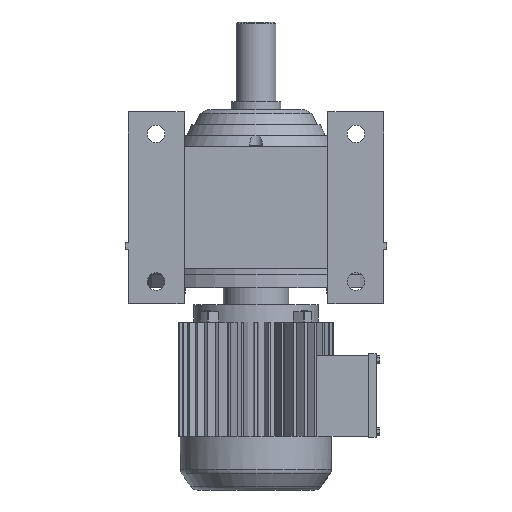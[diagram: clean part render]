
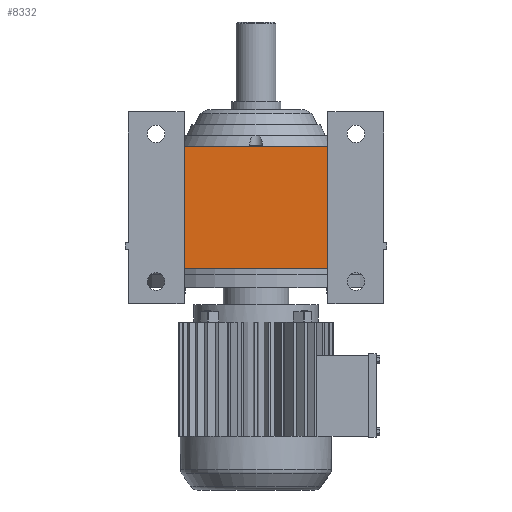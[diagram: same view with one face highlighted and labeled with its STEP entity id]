
A CAD part, front view. The second image highlights one B-rep face of the part: STEP entity #8332.
In plain terms, the highlighted planar face has unit normal (0, -1, 0).
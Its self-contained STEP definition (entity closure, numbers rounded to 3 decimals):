
#2512 = PLANE('',#2513);
#2513 = AXIS2_PLACEMENT_3D('',#2514,#2515,#2516);
#2514 = CARTESIAN_POINT('',(-90.,-193.,-36.5));
#2515 = DIRECTION('',(1.,0.,0.));
#2516 = DIRECTION('',(0.,0.,-1.));
#3045 = PLANE('',#3046);
#3046 = AXIS2_PLACEMENT_3D('',#3047,#3048,#3049);
#3047 = CARTESIAN_POINT('',(-96.5,27.45,159.5));
#3048 = DIRECTION('',(0.,0.,1.));
#3049 = DIRECTION('',(1.,0.,0.));
#3253 = PLANE('',#3254);
#3254 = AXIS2_PLACEMENT_3D('',#3255,#3256,#3257);
#3255 = CARTESIAN_POINT('',(90.,-193.,-36.5));
#3256 = DIRECTION('',(-1.,0.,0.));
#3257 = DIRECTION('',(0.,0.,1.));
#3795 = PLANE('',#3796);
#3796 = AXIS2_PLACEMENT_3D('',#3797,#3798,#3799);
#3797 = CARTESIAN_POINT('',(-96.5,27.45,7.5));
#3798 = DIRECTION('',(0.,0.,1.));
#3799 = DIRECTION('',(1.,0.,0.));
#4275 = EDGE_CURVE('',#4276,#4278,#4280,.T.);
#4276 = VERTEX_POINT('',#4277);
#4277 = CARTESIAN_POINT('',(-90.,-222.167,159.5));
#4278 = VERTEX_POINT('',#4279);
#4279 = CARTESIAN_POINT('',(-90.,-222.167,7.5));
#4280 = SURFACE_CURVE('',#4281,(#4285,#4292),.PCURVE_S1.);
#4281 = LINE('',#4282,#4283);
#4282 = CARTESIAN_POINT('',(-90.,-222.167,159.5));
#4283 = VECTOR('',#4284,1.);
#4284 = DIRECTION('',(0.,0.,-1.));
#4285 = PCURVE('',#2512,#4286);
#4286 = DEFINITIONAL_REPRESENTATION('',(#4287),#4291);
#4287 = LINE('',#4288,#4289);
#4288 = CARTESIAN_POINT('',(-196.,-29.167));
#4289 = VECTOR('',#4290,1.);
#4290 = DIRECTION('',(1.,0.));
#4291 = ( GEOMETRIC_REPRESENTATION_CONTEXT(2) 
PARAMETRIC_REPRESENTATION_CONTEXT() REPRESENTATION_CONTEXT('2D SPACE',''
  ) );
#4292 = PCURVE('',#4293,#4298);
#4293 = PLANE('',#4294);
#4294 = AXIS2_PLACEMENT_3D('',#4295,#4296,#4297);
#4295 = CARTESIAN_POINT('',(-160.,-222.167,159.5));
#4296 = DIRECTION('',(0.,1.,0.));
#4297 = DIRECTION('',(0.,0.,1.));
#4298 = DEFINITIONAL_REPRESENTATION('',(#4299),#4303);
#4299 = LINE('',#4300,#4301);
#4300 = CARTESIAN_POINT('',(0.,70.));
#4301 = VECTOR('',#4302,1.);
#4302 = DIRECTION('',(-1.,0.));
#4303 = ( GEOMETRIC_REPRESENTATION_CONTEXT(2) 
PARAMETRIC_REPRESENTATION_CONTEXT() REPRESENTATION_CONTEXT('2D SPACE',''
  ) );
#6788 = EDGE_CURVE('',#4276,#6789,#6791,.T.);
#6789 = VERTEX_POINT('',#6790);
#6790 = CARTESIAN_POINT('',(90.,-222.167,159.5));
#6791 = SURFACE_CURVE('',#6792,(#6796,#6803),.PCURVE_S1.);
#6792 = LINE('',#6793,#6794);
#6793 = CARTESIAN_POINT('',(-160.,-222.167,159.5));
#6794 = VECTOR('',#6795,1.);
#6795 = DIRECTION('',(1.,0.,0.));
#6796 = PCURVE('',#3045,#6797);
#6797 = DEFINITIONAL_REPRESENTATION('',(#6798),#6802);
#6798 = LINE('',#6799,#6800);
#6799 = CARTESIAN_POINT('',(-63.5,-249.617));
#6800 = VECTOR('',#6801,1.);
#6801 = DIRECTION('',(1.,0.));
#6802 = ( GEOMETRIC_REPRESENTATION_CONTEXT(2) 
PARAMETRIC_REPRESENTATION_CONTEXT() REPRESENTATION_CONTEXT('2D SPACE',''
  ) );
#6803 = PCURVE('',#4293,#6804);
#6804 = DEFINITIONAL_REPRESENTATION('',(#6805),#6809);
#6805 = LINE('',#6806,#6807);
#6806 = CARTESIAN_POINT('',(0.,0.));
#6807 = VECTOR('',#6808,1.);
#6808 = DIRECTION('',(0.,1.));
#6809 = ( GEOMETRIC_REPRESENTATION_CONTEXT(2) 
PARAMETRIC_REPRESENTATION_CONTEXT() REPRESENTATION_CONTEXT('2D SPACE',''
  ) );
#7652 = EDGE_CURVE('',#7653,#6789,#7655,.T.);
#7653 = VERTEX_POINT('',#7654);
#7654 = CARTESIAN_POINT('',(90.,-222.167,7.5));
#7655 = SURFACE_CURVE('',#7656,(#7660,#7667),.PCURVE_S1.);
#7656 = LINE('',#7657,#7658);
#7657 = CARTESIAN_POINT('',(90.,-222.167,159.5));
#7658 = VECTOR('',#7659,1.);
#7659 = DIRECTION('',(0.,0.,1.));
#7660 = PCURVE('',#3253,#7661);
#7661 = DEFINITIONAL_REPRESENTATION('',(#7662),#7666);
#7662 = LINE('',#7663,#7664);
#7663 = CARTESIAN_POINT('',(196.,-29.167));
#7664 = VECTOR('',#7665,1.);
#7665 = DIRECTION('',(1.,0.));
#7666 = ( GEOMETRIC_REPRESENTATION_CONTEXT(2) 
PARAMETRIC_REPRESENTATION_CONTEXT() REPRESENTATION_CONTEXT('2D SPACE',''
  ) );
#7667 = PCURVE('',#4293,#7668);
#7668 = DEFINITIONAL_REPRESENTATION('',(#7669),#7673);
#7669 = LINE('',#7670,#7671);
#7670 = CARTESIAN_POINT('',(0.,250.));
#7671 = VECTOR('',#7672,1.);
#7672 = DIRECTION('',(1.,0.));
#7673 = ( GEOMETRIC_REPRESENTATION_CONTEXT(2) 
PARAMETRIC_REPRESENTATION_CONTEXT() REPRESENTATION_CONTEXT('2D SPACE',''
  ) );
#8183 = EDGE_CURVE('',#4278,#7653,#8184,.T.);
#8184 = SURFACE_CURVE('',#8185,(#8189,#8196),.PCURVE_S1.);
#8185 = LINE('',#8186,#8187);
#8186 = CARTESIAN_POINT('',(-160.,-222.167,7.5));
#8187 = VECTOR('',#8188,1.);
#8188 = DIRECTION('',(1.,0.,0.));
#8189 = PCURVE('',#3795,#8190);
#8190 = DEFINITIONAL_REPRESENTATION('',(#8191),#8195);
#8191 = LINE('',#8192,#8193);
#8192 = CARTESIAN_POINT('',(-63.5,-249.617));
#8193 = VECTOR('',#8194,1.);
#8194 = DIRECTION('',(1.,0.));
#8195 = ( GEOMETRIC_REPRESENTATION_CONTEXT(2) 
PARAMETRIC_REPRESENTATION_CONTEXT() REPRESENTATION_CONTEXT('2D SPACE',''
  ) );
#8196 = PCURVE('',#4293,#8197);
#8197 = DEFINITIONAL_REPRESENTATION('',(#8198),#8202);
#8198 = LINE('',#8199,#8200);
#8199 = CARTESIAN_POINT('',(-152.,0.));
#8200 = VECTOR('',#8201,1.);
#8201 = DIRECTION('',(0.,1.));
#8202 = ( GEOMETRIC_REPRESENTATION_CONTEXT(2) 
PARAMETRIC_REPRESENTATION_CONTEXT() REPRESENTATION_CONTEXT('2D SPACE',''
  ) );
#8332 = ADVANCED_FACE('',(#8333),#4293,.F.);
#8333 = FACE_BOUND('',#8334,.T.);
#8334 = EDGE_LOOP('',(#8335,#8336,#8337,#8338));
#8335 = ORIENTED_EDGE('',*,*,#6788,.F.);
#8336 = ORIENTED_EDGE('',*,*,#4275,.T.);
#8337 = ORIENTED_EDGE('',*,*,#8183,.T.);
#8338 = ORIENTED_EDGE('',*,*,#7652,.T.);
